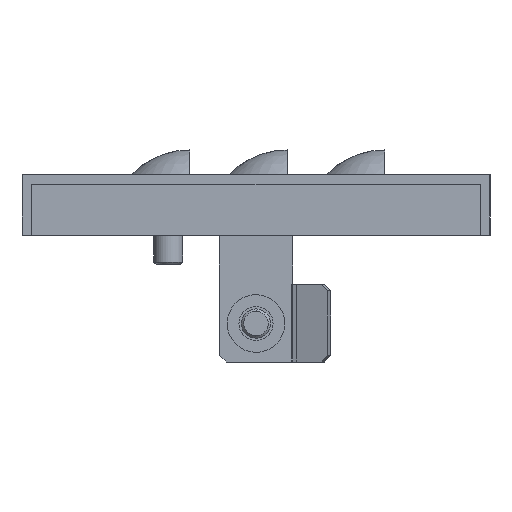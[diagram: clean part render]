
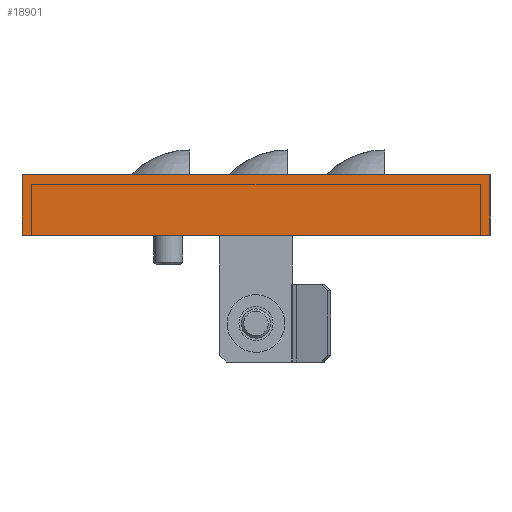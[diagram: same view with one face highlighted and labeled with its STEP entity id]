
A CAD part, left-side view. The second image highlights one B-rep face of the part: STEP entity #18901.
In plain terms, the highlighted planar face has unit normal (-1, 0, 0).
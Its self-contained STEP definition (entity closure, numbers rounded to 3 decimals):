
#298 = LINE ( 'NONE', #21727, #8557 ) ;
#887 = VECTOR ( 'NONE', #14050, 1000. ) ;
#1016 = CARTESIAN_POINT ( 'NONE',  ( -995., -48., 0. ) ) ;
#1864 = CARTESIAN_POINT ( 'NONE',  ( -995., 0., 0. ) ) ;
#2424 = EDGE_CURVE ( 'NONE', #4602, #17501, #15819, .T. ) ;
#2469 = VERTEX_POINT ( 'NONE', #1864 ) ;
#2886 = CARTESIAN_POINT ( 'NONE',  ( -995., -96., -12.5 ) ) ;
#3183 = CARTESIAN_POINT ( 'NONE',  ( -995., -96., 0. ) ) ;
#3391 = VECTOR ( 'NONE', #22328, 1000. ) ;
#3698 = CARTESIAN_POINT ( 'NONE',  ( -995., -48., -2. ) ) ;
#4212 = ORIENTED_EDGE ( 'NONE', *, *, #2424, .F. ) ;
#4602 = VERTEX_POINT ( 'NONE', #3183 ) ;
#5092 = DIRECTION ( 'NONE',  ( 0., 0., -1. ) ) ;
#5349 = PLANE ( 'NONE',  #11479 ) ;
#6909 = CARTESIAN_POINT ( 'NONE',  ( -995., -96., 2.928 ) ) ;
#7181 = ORIENTED_EDGE ( 'NONE', *, *, #11779, .T. ) ;
#7539 = EDGE_CURVE ( 'NONE', #14233, #17501, #298, .T. ) ;
#7568 = CARTESIAN_POINT ( 'NONE',  ( -995., 0., -12.5 ) ) ;
#8557 = VECTOR ( 'NONE', #21500, 1000. ) ;
#11479 = AXIS2_PLACEMENT_3D ( 'NONE', #3698, #12125, #19289 ) ;
#11779 = EDGE_CURVE ( 'NONE', #4602, #2469, #18932, .T. ) ;
#12125 = DIRECTION ( 'NONE',  ( 1., 0., 0. ) ) ;
#14050 = DIRECTION ( 'NONE',  ( 0., 0., -1. ) ) ;
#14233 = VERTEX_POINT ( 'NONE', #7568 ) ;
#14714 = ORIENTED_EDGE ( 'NONE', *, *, #20950, .T. ) ;
#15819 = LINE ( 'NONE', #6909, #887 ) ;
#16103 = LINE ( 'NONE', #21135, #21863 ) ;
#17501 = VERTEX_POINT ( 'NONE', #2886 ) ;
#18424 = ORIENTED_EDGE ( 'NONE', *, *, #7539, .T. ) ;
#18901 = ADVANCED_FACE ( 'NONE', ( #21388 ), #5349, .F. ) ;
#18932 = LINE ( 'NONE', #1016, #3391 ) ;
#19289 = DIRECTION ( 'NONE',  ( 0., 1., 0. ) ) ;
#20950 = EDGE_CURVE ( 'NONE', #2469, #14233, #16103, .T. ) ;
#21135 = CARTESIAN_POINT ( 'NONE',  ( -995., 0., 2.928 ) ) ;
#21388 = FACE_OUTER_BOUND ( 'NONE', #22805, .T. ) ;
#21500 = DIRECTION ( 'NONE',  ( 0., -1., 0. ) ) ;
#21727 = CARTESIAN_POINT ( 'NONE',  ( -995., -48., -12.5 ) ) ;
#21863 = VECTOR ( 'NONE', #5092, 1000. ) ;
#22328 = DIRECTION ( 'NONE',  ( 0., 1., 0. ) ) ;
#22805 = EDGE_LOOP ( 'NONE', ( #7181, #14714, #18424, #4212 ) ) ;
